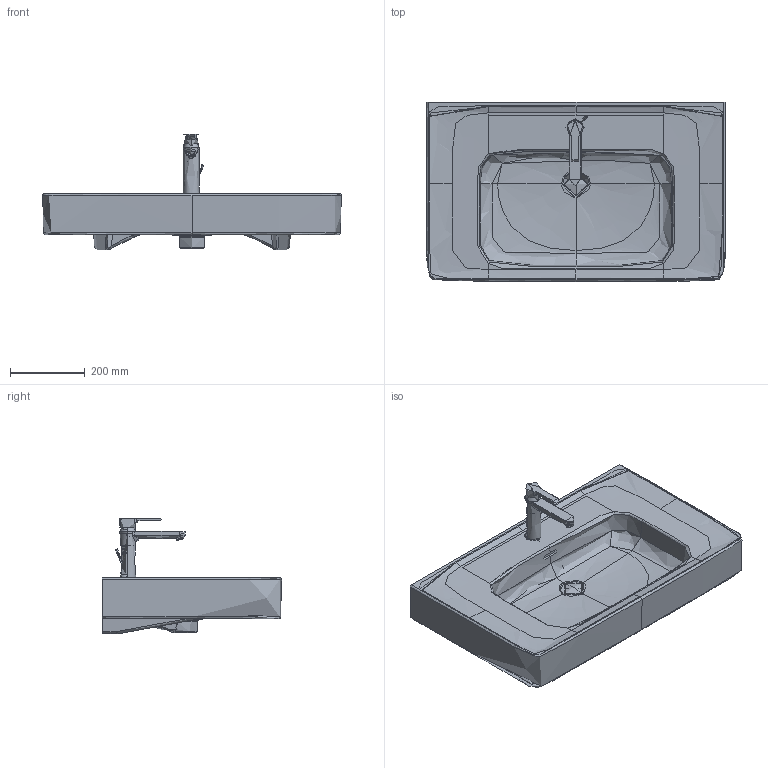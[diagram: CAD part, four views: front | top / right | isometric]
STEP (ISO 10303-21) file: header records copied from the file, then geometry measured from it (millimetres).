
FILE_DESCRIPTION(/* description */ (''),/* implementation_level */ '2;1');
FILE_NAME(/* name */ '237780',/* time_stamp */ '2021-10-25T10:48:16+02:00',/* author */ (''),/* organization */ (''),/* preprocessor_version */ 'ST-DEVELOPER v15',/* originating_system */ '',/* authorisation */ '');
FILE_SCHEMA (('AUTOMOTIVE_DESIGN'));
Length unit declared in the file: millimetre
Products named in the file (1): Document
Bounding box: 799.86 x 479.93 x 310.85 mm (x, y, z)
Volume: 133228.5 mm3; surface area: 1480875.6 mm2
Topology: 10 solids, 13 shells, 894 faces, 2182 edges, 1296 vertices
Faces by surface type: bspline 750, plane 144
Entity records: 130359 total; most frequent: CARTESIAN_POINT 117873, ORIENTED_EDGE 4297, EDGE_CURVE 2158, VERTEX_POINT 1296, B_SPLINE_CURVE_WITH_KNOTS 1192, EDGE_LOOP 950, ADVANCED_FACE 894, FACE_OUTER_BOUND 894
